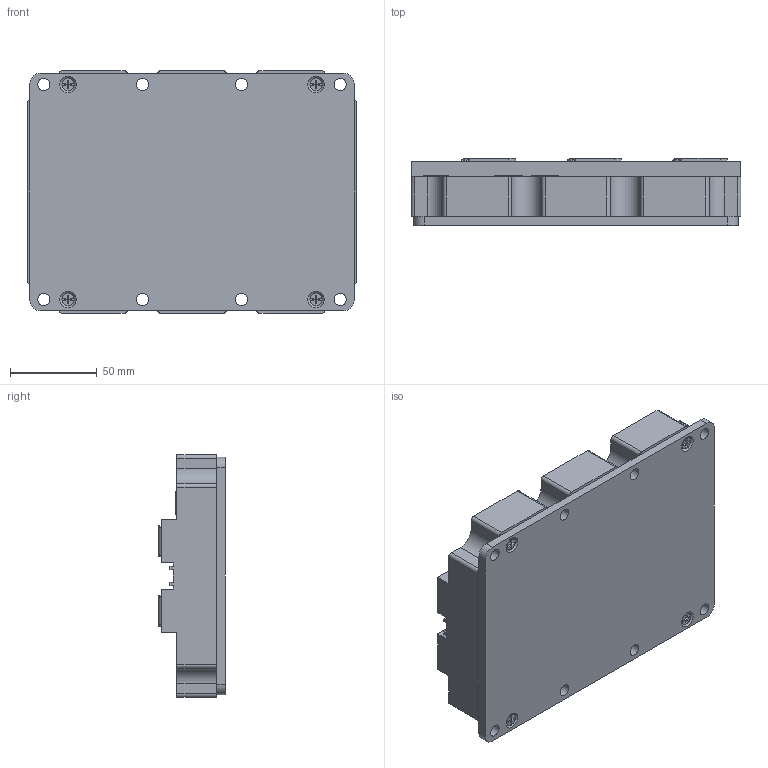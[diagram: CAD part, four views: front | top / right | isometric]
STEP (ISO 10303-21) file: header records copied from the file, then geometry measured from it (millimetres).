
FILE_DESCRIPTION (( 'STEP AP214' ), '1' );
FILE_NAME ('LD-ES-170634-MBN3600E17F.STEP', '2017-08-28T02:18:42', ( 'Flora110' ), ( '' ), 'SwSTEP 2.0', 'SolidWorks 2010', '' );
FILE_SCHEMA (( 'AUTOMOTIVE_DESIGN' ));
Length unit declared in the file: millimetre
Products named in the file (1): LD-ES-170634-MBN3600E17F
Bounding box: 190 x 38.5 x 140 mm (x, y, z)
Volume: 775371.5 mm3; surface area: 93331.2 mm2
Topology: 1 solids, 15 shells, 810 faces, 2154 edges, 1422 vertices
Faces by surface type: plane 464, bspline 210, cylinder 136
Full cylindrical faces by diameter (mm): 3.5 x4, 4 x3, 4.5 x4, 5 x4, 7 x12, 8 x6, 9 x6, 18.1 x6, 18.5 x6
Entity records: 30031 total; most frequent: CARTESIAN_POINT 11363, ORIENTED_EDGE 4076, DIRECTION 3288, EDGE_CURVE 2038, VERTEX_POINT 1388, VECTOR 1246, LINE 1246, AXIS2_PLACEMENT_3D 1021
